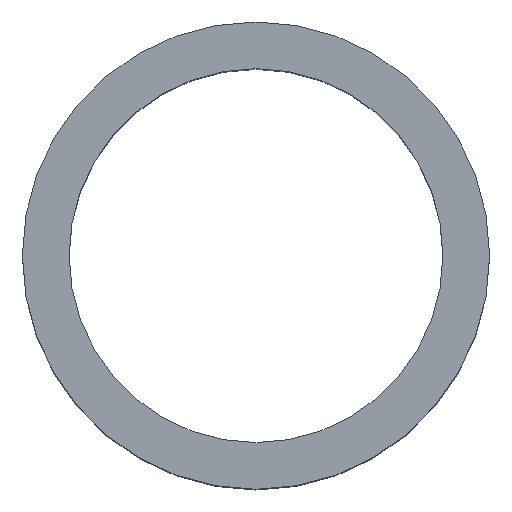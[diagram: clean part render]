
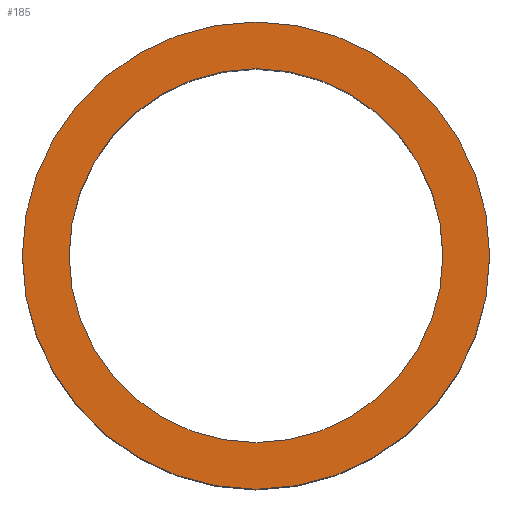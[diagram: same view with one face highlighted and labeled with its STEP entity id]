
A CAD part, top view. The second image highlights one B-rep face of the part: STEP entity #185.
In plain terms, the highlighted planar face has unit normal (0, 0, 1).
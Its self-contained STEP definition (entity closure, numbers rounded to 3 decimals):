
#185=ADVANCED_FACE('',(#211,#212),#209,.T.);
#209=PLANE('',#442);
#211=FACE_BOUND('',#215,.T.);
#212=FACE_BOUND('',#216,.T.);
#215=EDGE_LOOP('',(#241,#242));
#216=EDGE_LOOP('',(#243,#244));
#241=ORIENTED_EDGE('',*,*,#363,.T.);
#242=ORIENTED_EDGE('',*,*,#364,.T.);
#243=ORIENTED_EDGE('',*,*,#365,.F.);
#244=ORIENTED_EDGE('',*,*,#366,.F.);
#337=VERTEX_POINT('',#614);
#338=VERTEX_POINT('',#615);
#339=VERTEX_POINT('',#618);
#340=VERTEX_POINT('',#619);
#363=EDGE_CURVE('',#337,#338,#411,.T.);
#364=EDGE_CURVE('',#338,#337,#412,.T.);
#365=EDGE_CURVE('',#339,#340,#413,.T.);
#366=EDGE_CURVE('',#340,#339,#414,.T.);
#411=CIRCLE('',#438,12.5);
#412=CIRCLE('',#439,12.5);
#413=CIRCLE('',#440,10.);
#414=CIRCLE('',#441,10.);
#438=AXIS2_PLACEMENT_3D('',#613,#490,#491);
#439=AXIS2_PLACEMENT_3D('',#616,#492,#493);
#440=AXIS2_PLACEMENT_3D('',#617,#494,#495);
#441=AXIS2_PLACEMENT_3D('',#620,#496,#497);
#442=AXIS2_PLACEMENT_3D('',#621,#498,#499);
#490=DIRECTION('',(0.,0.,1.));
#491=DIRECTION('',(0.,-1.,0.));
#492=DIRECTION('',(0.,0.,1.));
#493=DIRECTION('',(0.,1.,0.));
#494=DIRECTION('',(0.,0.,1.));
#495=DIRECTION('',(0.,1.,0.));
#496=DIRECTION('',(0.,0.,1.));
#497=DIRECTION('',(0.,-1.,0.));
#498=DIRECTION('',(0.,0.,1.));
#499=DIRECTION('',(0.,-1.,0.));
#613=CARTESIAN_POINT('',(0.,0.,22.));
#614=CARTESIAN_POINT('',(12.5,0.,22.));
#615=CARTESIAN_POINT('',(-12.5,0.,22.));
#616=CARTESIAN_POINT('',(0.,0.,22.));
#617=CARTESIAN_POINT('',(0.,0.,22.));
#618=CARTESIAN_POINT('',(-10.,0.,22.));
#619=CARTESIAN_POINT('',(10.,0.,22.));
#620=CARTESIAN_POINT('',(0.,0.,22.));
#621=CARTESIAN_POINT('',(0.,0.,22.));
